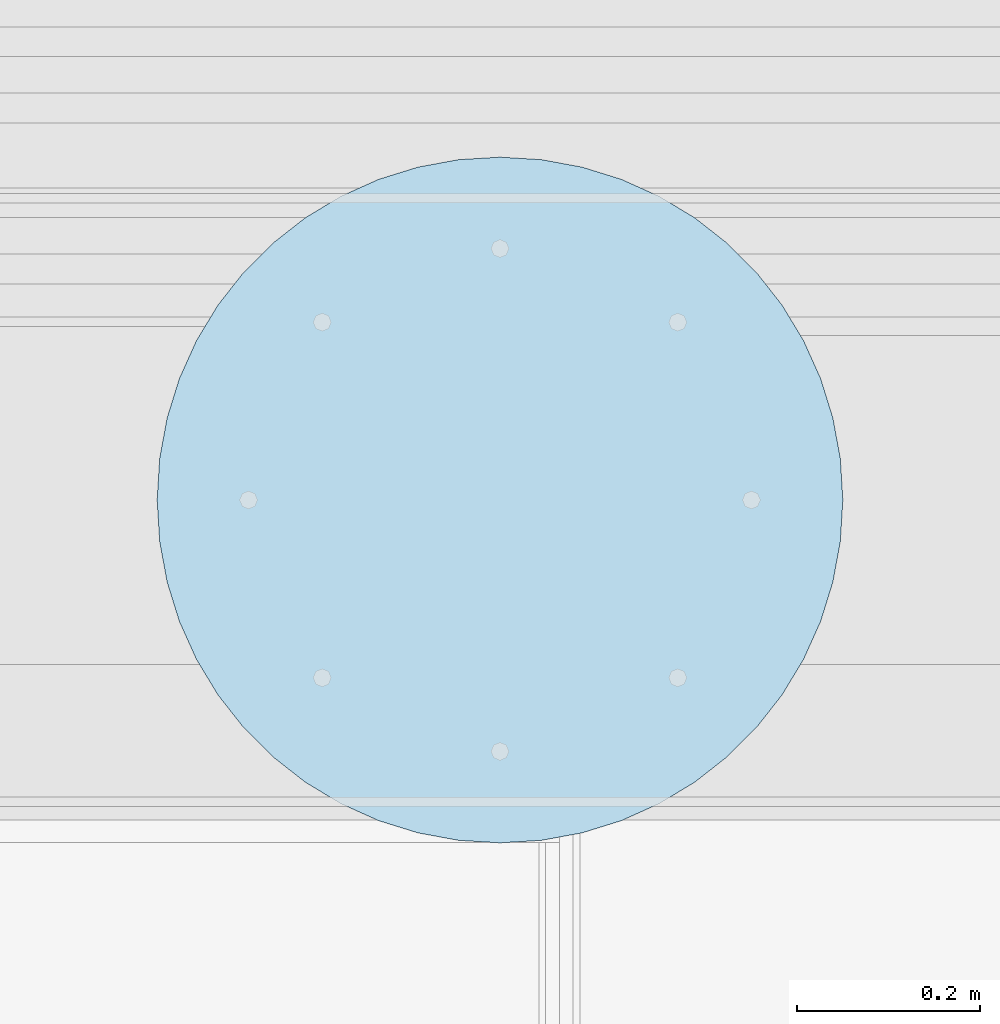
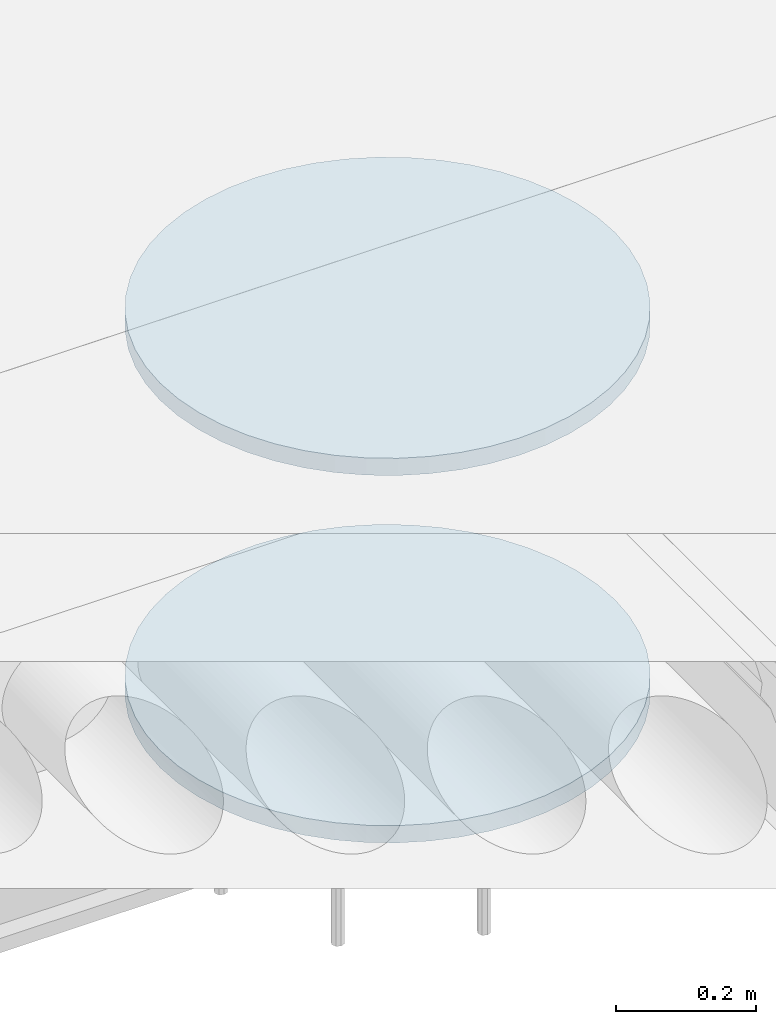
# One storey, part 27 of 30: 2 plates.
"""IFC2X3 building model written with IfcOpenShell, lengths in millimetres."""

from ifc_helpers import new_model, entity, si_unit, converted_unit, derived_unit, direction, frame, origin_with_axes, place, context, subcontext, project, spatial, faceted_brep, material, type_object, element, save


model = new_model("IFC2X3")

# Units and contexts
model_context = context("Model", 3, precision=0.01, world=frame((0.0, 4.29681676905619e-09, 0.0)), true_north=direction((4.01073788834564e-13, 1.0)))
plan_context = context("Plan", 3, precision=0.01, world=frame((0.0, 4.29681676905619e-09, 0.0)), true_north=direction((4.01073788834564e-13, 1.0)))
body_context = subcontext(model_context, "Body", "Model", "MODEL_VIEW")
ifc_project = project(units=[converted_unit("PLANEANGLEUNIT", "DEGREE", entity("IfcPositiveLengthMeasure", 0.0174532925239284), si_unit("PLANEANGLEUNIT", "RADIAN"), dimensions=[0, 0, 0, 0, 0, 0, 0]), si_unit("AREAUNIT", "SQUARE_METRE"), si_unit("LENGTHUNIT", "METRE", prefix="MILLI"), si_unit("MASSUNIT", "GRAM", prefix="KILO"), si_unit("POWERUNIT", "WATT"), si_unit("PRESSUREUNIT", "PASCAL"), si_unit("FORCEUNIT", "NEWTON", prefix="KILO"), si_unit("ELECTRICVOLTAGEUNIT", "VOLT"), si_unit("ELECTRICCURRENTUNIT", "AMPERE"), si_unit("THERMODYNAMICTEMPERATUREUNIT", "DEGREE_CELSIUS"), si_unit("TIMEUNIT", "SECOND"), si_unit("VOLUMEUNIT", "CUBIC_METRE"), derived_unit("LINEARVELOCITYUNIT", [(si_unit("LENGTHUNIT", "METRE"), 1), (si_unit("TIMEUNIT", "SECOND"), -1)]), derived_unit("VOLUMETRICFLOWRATEUNIT", [(si_unit("VOLUMEUNIT", "CUBIC_METRE"), 1), (si_unit("TIMEUNIT", "SECOND"), -1)]), derived_unit("THERMALTRANSMITTANCEUNIT", [(si_unit("POWERUNIT", "WATT"), 1), (si_unit("THERMODYNAMICTEMPERATUREUNIT", "KELVIN"), -1), (si_unit("AREAUNIT", "SQUARE_METRE"), -1)]), derived_unit("SOUNDPRESSUREUNIT", [(si_unit("PRESSUREUNIT", "PASCAL"), 1)])], contexts=[model_context, plan_context])

# Site, building, storey
site_placement = place(None, frame((0.0, -4.29681676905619e-09, 0.0), z_axis=(0.0, 0.0, 1.0), x_axis=(1.0, 0.0, 0.0)))
site = spatial("IfcSite", under=ifc_project, at=site_placement, Name="Gardermoen", CompositionType="ELEMENT")
building_placement = place(site_placement, frame((0.0, 4.29681676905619e-09, 0.0), z_axis=(0.0, 0.0, 1.0), x_axis=(1.0, 0.0, 0.0)))
building = spatial("IfcBuilding", under=site, at=building_placement, Name="TI", CompositionType="ELEMENT")
storey_placement = place(building_placement, origin_with_axes())
storey = spatial("IfcBuildingStorey", under=building, at=storey_placement, Name="F", CompositionType="ELEMENT", Elevation=0.0)

# Plates
ifc_material = material(Name="STEEL/S355")
plate_type = type_object("IfcPlateType", Name="PL30*750", PredefinedType="NOTDEFINED")
plate_1_placement = place(storey_placement, frame((600625.0, 698374.995625, 210705.0), z_axis=(1.0, 0.0, 0.0), x_axis=(0.0, -1.0, 0.0)))
element("IfcPlate", 1, at=plate_1_placement, inside=storey, type_object=plate_type, material=ifc_material, Name="INNSTØPNGODS", ObjectType="PL30*750", context=body_context, shape_type="Brep", body=[
    faceted_brep([(0.0, -15.0, 375.0), (2.73417221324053, -15.0, 420.201255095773), (2.73417221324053, 15.0, 420.201255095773), (0.0, 15.0, 375.0), (10.896818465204, -15.0, 464.743374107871), (10.896818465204, 15.0, 464.743374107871), (24.3689089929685, -15.0, 507.976832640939), (24.3689089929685, 15.0, 507.976832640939), (42.9539903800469, -15.0, 549.27118951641), (42.9539903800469, 15.0, 549.27118951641), (66.3810502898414, -15.0, 588.024280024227), (66.3810502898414, 15.0, 588.024280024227), (94.3084694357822, -15.0, 623.670996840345), (94.3084694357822, 15.0, 623.670996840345), (126.329003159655, -15.0, 655.691530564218), (126.329003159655, 15.0, 655.691530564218), (161.975719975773, -15.0, 683.618949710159), (161.975719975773, 15.0, 683.618949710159), (200.72881048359, -15.0, 707.046009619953), (200.72881048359, 15.0, 707.046009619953), (242.023167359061, -15.0, 725.631091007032), (242.023167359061, 15.0, 725.631091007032), (285.256625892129, -15.0, 739.103181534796), (285.256625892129, 15.0, 739.103181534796), (329.798744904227, -15.0, 747.265827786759), (329.798744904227, 15.0, 747.265827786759), (375.0, -15.0, 750.0), (375.0, 15.0, 750.0), (420.201255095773, -15.0, 747.265827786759), (420.201255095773, 15.0, 747.265827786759), (464.743374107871, -15.0, 739.103181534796), (464.743374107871, 15.0, 739.103181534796), (507.976832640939, -15.0, 725.631091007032), (507.976832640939, 15.0, 725.631091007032), (549.27118951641, -15.0, 707.046009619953), (549.27118951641, 15.0, 707.046009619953), (588.024280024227, -15.0, 683.618949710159), (588.024280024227, 15.0, 683.618949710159), (623.670996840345, -15.0, 655.691530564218), (623.670996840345, 15.0, 655.691530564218), (655.691530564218, -15.0, 623.670996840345), (655.691530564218, 15.0, 623.670996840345), (683.618949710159, -15.0, 588.024280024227), (683.618949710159, 15.0, 588.024280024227), (707.046009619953, -15.0, 549.27118951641), (707.046009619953, 15.0, 549.27118951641), (725.631091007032, -15.0, 507.976832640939), (725.631091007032, 15.0, 507.976832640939), (739.103181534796, -15.0, 464.743374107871), (739.103181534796, 15.0, 464.743374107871), (747.265827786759, -15.0, 420.201255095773), (747.265827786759, 15.0, 420.201255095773), (750.0, -15.0, 375.0), (750.0, 15.0, 375.0), (747.265827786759, -15.0, 329.798744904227), (747.265827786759, 15.0, 329.798744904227), (739.103181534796, -15.0, 285.256625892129), (739.103181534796, 15.0, 285.256625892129), (725.631091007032, -15.0, 242.023167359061), (725.631091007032, 15.0, 242.023167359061), (707.046009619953, -15.0, 200.72881048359), (707.046009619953, 15.0, 200.72881048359), (683.618949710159, -15.0, 161.975719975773), (683.618949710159, 15.0, 161.975719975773), (655.691530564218, -15.0, 126.329003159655), (655.691530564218, 15.0, 126.329003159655), (623.670996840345, -15.0, 94.3084694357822), (623.670996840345, 15.0, 94.3084694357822), (588.024280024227, -15.0, 66.3810502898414), (588.024280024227, 15.0, 66.3810502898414), (549.27118951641, -15.0, 42.9539903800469), (549.27118951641, 15.0, 42.9539903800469), (507.976832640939, -15.0, 24.3689089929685), (507.976832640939, 15.0, 24.3689089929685), (464.743374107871, -15.0, 10.896818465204), (464.743374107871, 15.0, 10.896818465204), (420.201255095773, -15.0, 2.73417221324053), (420.201255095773, 15.0, 2.73417221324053), (375.0, -15.0, 0.0), (375.0, 15.0, 0.0), (329.798744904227, -15.0, 2.73417221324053), (329.798744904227, 15.0, 2.73417221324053), (285.256625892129, -15.0, 10.896818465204), (285.256625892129, 15.0, 10.896818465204), (242.023167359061, -15.0, 24.3689089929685), (242.023167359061, 15.0, 24.3689089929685), (200.72881048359, -15.0, 42.9539903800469), (200.72881048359, 15.0, 42.9539903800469), (161.975719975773, -15.0, 66.3810502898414), (161.975719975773, 15.0, 66.3810502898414), (126.329003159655, -15.0, 94.3084694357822), (126.329003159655, 15.0, 94.3084694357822), (94.3084694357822, -15.0, 126.329003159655), (94.3084694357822, 15.0, 126.329003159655), (66.3810502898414, -15.0, 161.975719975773), (66.3810502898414, 15.0, 161.975719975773), (42.9539903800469, -15.0, 200.72881048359), (42.9539903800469, 15.0, 200.72881048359), (24.3689089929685, -15.0, 242.023167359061), (24.3689089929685, 15.0, 242.023167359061), (10.896818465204, -15.0, 285.256625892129), (10.896818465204, 15.0, 285.256625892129), (2.73417221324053, -15.0, 329.798744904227), (2.73417221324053, 15.0, 329.798744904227)], [[[0, 1, 2, 3]], [[1, 4, 5, 2]], [[4, 6, 7, 5]], [[6, 8, 9, 7]], [[8, 10, 11, 9]], [[10, 12, 13, 11]], [[12, 14, 15, 13]], [[14, 16, 17, 15]], [[16, 18, 19, 17]], [[18, 20, 21, 19]], [[20, 22, 23, 21]], [[22, 24, 25, 23]], [[24, 26, 27, 25]], [[26, 28, 29, 27]], [[28, 30, 31, 29]], [[30, 32, 33, 31]], [[32, 34, 35, 33]], [[34, 36, 37, 35]], [[36, 38, 39, 37]], [[38, 40, 41, 39]], [[40, 42, 43, 41]], [[42, 44, 45, 43]], [[44, 46, 47, 45]], [[46, 48, 49, 47]], [[48, 50, 51, 49]], [[50, 52, 53, 51]], [[52, 54, 55, 53]], [[54, 56, 57, 55]], [[56, 58, 59, 57]], [[58, 60, 61, 59]], [[60, 62, 63, 61]], [[62, 64, 65, 63]], [[64, 66, 67, 65]], [[66, 68, 69, 67]], [[68, 70, 71, 69]], [[70, 72, 73, 71]], [[72, 74, 75, 73]], [[74, 76, 77, 75]], [[76, 78, 79, 77]], [[78, 80, 81, 79]], [[80, 82, 83, 81]], [[82, 84, 85, 83]], [[84, 86, 87, 85]], [[86, 88, 89, 87]], [[88, 90, 91, 89]], [[90, 92, 93, 91]], [[92, 94, 95, 93]], [[94, 96, 97, 95]], [[96, 98, 99, 97]], [[98, 100, 101, 99]], [[100, 102, 103, 101]], [[102, 0, 3, 103]], [[5, 7, 9, 11, 13, 15, 17, 19, 21, 23, 25, 27, 29, 31, 33, 35, 37, 39, 41, 43, 45, 47, 49, 51, 53, 55, 57, 59, 61, 63, 65, 67, 69, 71, 73, 75, 77, 79, 81, 83, 85, 87, 89, 91, 93, 95, 97, 99, 101, 103, 3, 2]], [[102, 100, 98, 96, 94, 92, 90, 88, 86, 84, 82, 80, 78, 76, 74, 72, 70, 68, 66, 64, 62, 60, 58, 56, 54, 52, 50, 48, 46, 44, 42, 40, 38, 36, 34, 32, 30, 28, 26, 24, 22, 20, 18, 16, 14, 12, 10, 8, 6, 4, 1, 0]]]),
])
plate_2_placement = place(storey_placement, frame((600625.0, 698374.995625, 210065.0), z_axis=(1.0, 0.0, 0.0), x_axis=(0.0, -1.0, 0.0)))
element("IfcPlate", 2, at=plate_2_placement, inside=storey, type_object=plate_type, material=ifc_material, Name="INNSTØPNGODS", ObjectType="PL30*750", context=body_context, shape_type="Brep", body=[
    faceted_brep([(0.0, -15.0, 375.0), (2.73417221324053, -15.0, 420.201255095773), (2.73417221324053, 15.0, 420.201255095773), (0.0, 15.0, 375.0), (10.896818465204, -15.0, 464.743374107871), (10.896818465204, 15.0, 464.743374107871), (24.3689089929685, -15.0, 507.976832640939), (24.3689089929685, 15.0, 507.976832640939), (42.9539903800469, -15.0, 549.27118951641), (42.9539903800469, 15.0, 549.27118951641), (66.3810502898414, -15.0, 588.024280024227), (66.3810502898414, 15.0, 588.024280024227), (94.3084694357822, -15.0, 623.670996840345), (94.3084694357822, 15.0, 623.670996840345), (126.329003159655, -15.0, 655.691530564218), (126.329003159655, 15.0, 655.691530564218), (161.975719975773, -15.0, 683.618949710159), (161.975719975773, 15.0, 683.618949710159), (200.72881048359, -15.0, 707.046009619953), (200.72881048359, 15.0, 707.046009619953), (242.023167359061, -15.0, 725.631091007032), (242.023167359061, 15.0, 725.631091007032), (285.256625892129, -15.0, 739.103181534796), (285.256625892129, 15.0, 739.103181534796), (329.798744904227, -15.0, 747.265827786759), (329.798744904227, 15.0, 747.265827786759), (375.0, -15.0, 750.0), (375.0, 15.0, 750.0), (420.201255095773, -15.0, 747.265827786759), (420.201255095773, 15.0, 747.265827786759), (464.743374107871, -15.0, 739.103181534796), (464.743374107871, 15.0, 739.103181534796), (507.976832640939, -15.0, 725.631091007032), (507.976832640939, 15.0, 725.631091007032), (549.27118951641, -15.0, 707.046009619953), (549.27118951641, 15.0, 707.046009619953), (588.024280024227, -15.0, 683.618949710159), (588.024280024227, 15.0, 683.618949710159), (623.670996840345, -15.0, 655.691530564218), (623.670996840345, 15.0, 655.691530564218), (655.691530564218, -15.0, 623.670996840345), (655.691530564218, 15.0, 623.670996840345), (683.618949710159, -15.0, 588.024280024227), (683.618949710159, 15.0, 588.024280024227), (707.046009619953, -15.0, 549.27118951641), (707.046009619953, 15.0, 549.27118951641), (725.631091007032, -15.0, 507.976832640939), (725.631091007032, 15.0, 507.976832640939), (739.103181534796, -15.0, 464.743374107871), (739.103181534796, 15.0, 464.743374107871), (747.265827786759, -15.0, 420.201255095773), (747.265827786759, 15.0, 420.201255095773), (750.0, -15.0, 375.0), (750.0, 15.0, 375.0), (747.265827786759, -15.0, 329.798744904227), (747.265827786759, 15.0, 329.798744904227), (739.103181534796, -15.0, 285.256625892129), (739.103181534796, 15.0, 285.256625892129), (725.631091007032, -15.0, 242.023167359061), (725.631091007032, 15.0, 242.023167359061), (707.046009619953, -15.0, 200.72881048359), (707.046009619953, 15.0, 200.72881048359), (683.618949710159, -15.0, 161.975719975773), (683.618949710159, 15.0, 161.975719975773), (655.691530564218, -15.0, 126.329003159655), (655.691530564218, 15.0, 126.329003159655), (623.670996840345, -15.0, 94.3084694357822), (623.670996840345, 15.0, 94.3084694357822), (588.024280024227, -15.0, 66.3810502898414), (588.024280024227, 15.0, 66.3810502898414), (549.27118951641, -15.0, 42.9539903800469), (549.27118951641, 15.0, 42.9539903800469), (507.976832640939, -15.0, 24.3689089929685), (507.976832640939, 15.0, 24.3689089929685), (464.743374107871, -15.0, 10.896818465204), (464.743374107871, 15.0, 10.896818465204), (420.201255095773, -15.0, 2.73417221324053), (420.201255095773, 15.0, 2.73417221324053), (375.0, -15.0, 0.0), (375.0, 15.0, 0.0), (329.798744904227, -15.0, 2.73417221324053), (329.798744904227, 15.0, 2.73417221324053), (285.256625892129, -15.0, 10.896818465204), (285.256625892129, 15.0, 10.896818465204), (242.023167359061, -15.0, 24.3689089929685), (242.023167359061, 15.0, 24.3689089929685), (200.72881048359, -15.0, 42.9539903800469), (200.72881048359, 15.0, 42.9539903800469), (161.975719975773, -15.0, 66.3810502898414), (161.975719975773, 15.0, 66.3810502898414), (126.329003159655, -15.0, 94.3084694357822), (126.329003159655, 15.0, 94.3084694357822), (94.3084694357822, -15.0, 126.329003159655), (94.3084694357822, 15.0, 126.329003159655), (66.3810502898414, -15.0, 161.975719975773), (66.3810502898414, 15.0, 161.975719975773), (42.9539903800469, -15.0, 200.72881048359), (42.9539903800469, 15.0, 200.72881048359), (24.3689089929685, -15.0, 242.023167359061), (24.3689089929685, 15.0, 242.023167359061), (10.896818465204, -15.0, 285.256625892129), (10.896818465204, 15.0, 285.256625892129), (2.73417221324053, -15.0, 329.798744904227), (2.73417221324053, 15.0, 329.798744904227)], [[[0, 1, 2, 3]], [[1, 4, 5, 2]], [[4, 6, 7, 5]], [[6, 8, 9, 7]], [[8, 10, 11, 9]], [[10, 12, 13, 11]], [[12, 14, 15, 13]], [[14, 16, 17, 15]], [[16, 18, 19, 17]], [[18, 20, 21, 19]], [[20, 22, 23, 21]], [[22, 24, 25, 23]], [[24, 26, 27, 25]], [[26, 28, 29, 27]], [[28, 30, 31, 29]], [[30, 32, 33, 31]], [[32, 34, 35, 33]], [[34, 36, 37, 35]], [[36, 38, 39, 37]], [[38, 40, 41, 39]], [[40, 42, 43, 41]], [[42, 44, 45, 43]], [[44, 46, 47, 45]], [[46, 48, 49, 47]], [[48, 50, 51, 49]], [[50, 52, 53, 51]], [[52, 54, 55, 53]], [[54, 56, 57, 55]], [[56, 58, 59, 57]], [[58, 60, 61, 59]], [[60, 62, 63, 61]], [[62, 64, 65, 63]], [[64, 66, 67, 65]], [[66, 68, 69, 67]], [[68, 70, 71, 69]], [[70, 72, 73, 71]], [[72, 74, 75, 73]], [[74, 76, 77, 75]], [[76, 78, 79, 77]], [[78, 80, 81, 79]], [[80, 82, 83, 81]], [[82, 84, 85, 83]], [[84, 86, 87, 85]], [[86, 88, 89, 87]], [[88, 90, 91, 89]], [[90, 92, 93, 91]], [[92, 94, 95, 93]], [[94, 96, 97, 95]], [[96, 98, 99, 97]], [[98, 100, 101, 99]], [[100, 102, 103, 101]], [[102, 0, 3, 103]], [[5, 7, 9, 11, 13, 15, 17, 19, 21, 23, 25, 27, 29, 31, 33, 35, 37, 39, 41, 43, 45, 47, 49, 51, 53, 55, 57, 59, 61, 63, 65, 67, 69, 71, 73, 75, 77, 79, 81, 83, 85, 87, 89, 91, 93, 95, 97, 99, 101, 103, 3, 2]], [[102, 100, 98, 96, 94, 92, 90, 88, 86, 84, 82, 80, 78, 76, 74, 72, 70, 68, 66, 64, 62, 60, 58, 56, 54, 52, 50, 48, 46, 44, 42, 40, 38, 36, 34, 32, 30, 28, 26, 24, 22, 20, 18, 16, 14, 12, 10, 8, 6, 4, 1, 0]]]),
])

save(model, "model.ifc")
